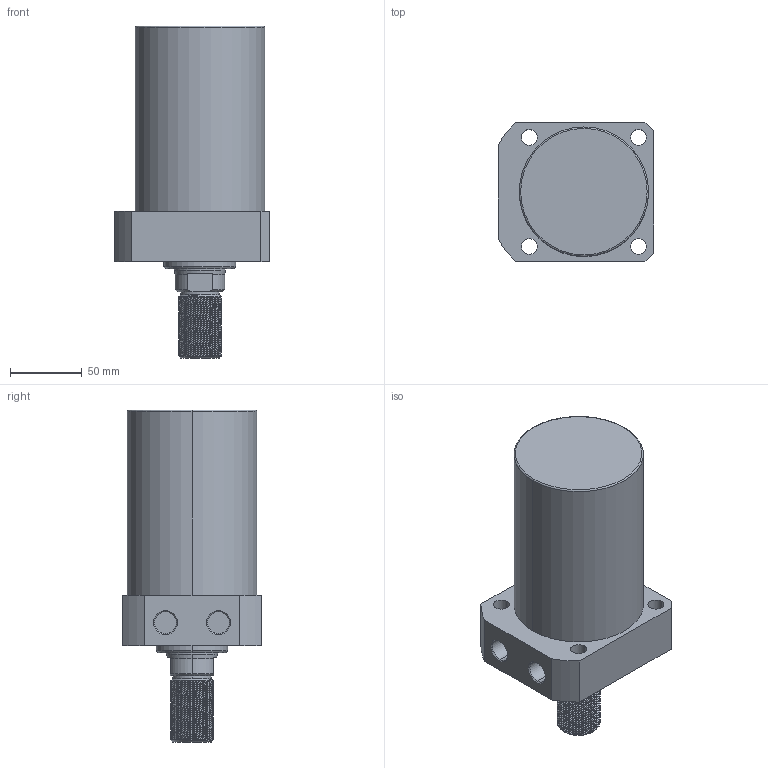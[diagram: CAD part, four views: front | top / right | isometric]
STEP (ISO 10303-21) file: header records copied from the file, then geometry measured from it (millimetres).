
FILE_DESCRIPTION (( 'STEP AP214' ), '1' );
FILE_NAME ('CLLR-090CT-085.STEP', '2020-01-10T01:54:38', ( 'Windows' ), ( 'Microsoft' ), 'SwSTEP 2.0', 'SolidWorks 2015', '' );
FILE_SCHEMA (( 'AUTOMOTIVE_DESIGN' ));
Length unit declared in the file: millimetre
Products named in the file (1): CLLR-090CT-085
Bounding box: 108 x 97 x 231 mm (x, y, z)
Volume: 1214668.9 mm3; surface area: 85251.8 mm2
Topology: 1 solids, 1 shells, 125 faces, 331 edges, 216 vertices
Faces by surface type: cylinder 85, plane 20, cone 16, torus 2, bspline 2
Entity records: 7018 total; most frequent: CARTESIAN_POINT 4122, ORIENTED_EDGE 662, DIRECTION 530, EDGE_CURVE 331, VERTEX_POINT 216, AXIS2_PLACEMENT_3D 204, EDGE_LOOP 141, ADVANCED_FACE 125
